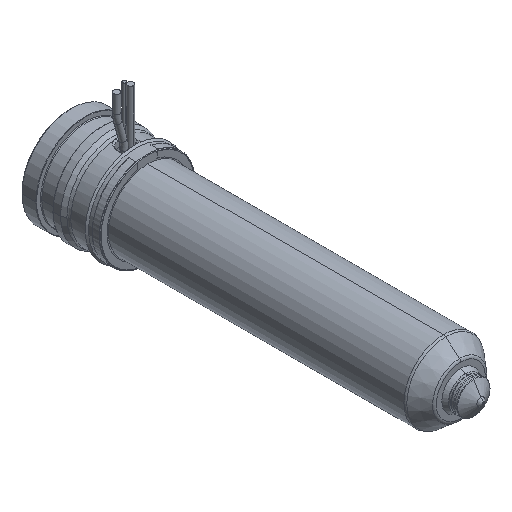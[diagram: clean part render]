
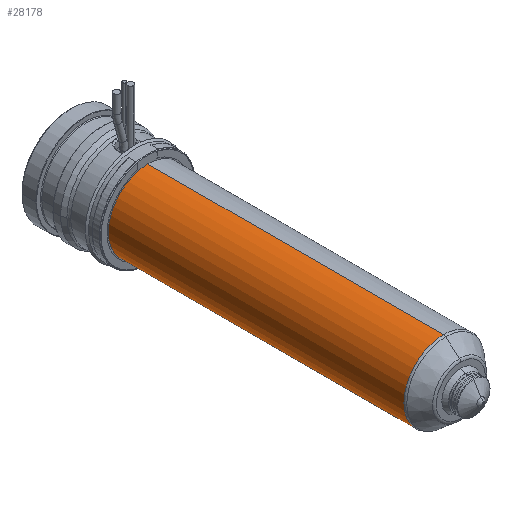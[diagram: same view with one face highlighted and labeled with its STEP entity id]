
A CAD part, isometric view. The second image highlights one B-rep face of the part: STEP entity #28178.
In plain terms, the highlighted cylindrical face has radius 12 mm (diameter 24 mm), a partial arc.
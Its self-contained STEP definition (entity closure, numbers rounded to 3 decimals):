
#27663=CARTESIAN_POINT('',(0.,-24.,0.));
#27664=DIRECTION('',(0.,1.,0.));
#27665=DIRECTION('',(0.,0.,-1.));
#27666=AXIS2_PLACEMENT_3D('',#27663,#27664,#27665);
#27671=DIRECTION('',(0.,1.,0.));
#27672=VECTOR('',#27671,89.736);
#27673=CARTESIAN_POINT('',(0.,-113.736,12.));
#27674=LINE('',#27673,#27672);
#27686=DIRECTION('',(0.,1.,0.));
#27687=VECTOR('',#27686,89.736);
#27688=CARTESIAN_POINT('',(0.,-113.736,-12.));
#27689=LINE('',#27688,#27687);
#27717=CARTESIAN_POINT('',(0.,-113.736,0.));
#27718=DIRECTION('',(0.,-1.,0.));
#27719=DIRECTION('',(0.,0.,1.));
#27720=AXIS2_PLACEMENT_3D('',#27717,#27718,#27719);
#28047=CARTESIAN_POINT('',(0.,-113.736,12.));
#28048=CARTESIAN_POINT('',(0.,-24.,12.));
#28049=VERTEX_POINT('',#28047);
#28050=VERTEX_POINT('',#28048);
#28051=CARTESIAN_POINT('',(0.,-113.736,-12.));
#28052=CARTESIAN_POINT('',(0.,-24.,-12.));
#28053=VERTEX_POINT('',#28051);
#28054=VERTEX_POINT('',#28052);
#28164=CARTESIAN_POINT('',(0.,-14.7,0.));
#28165=DIRECTION('',(0.,-1.,0.));
#28166=DIRECTION('',(0.,0.,1.));
#28167=AXIS2_PLACEMENT_3D('',#28164,#28165,#28166);
#28168=CYLINDRICAL_SURFACE('',#28167,12.);
#28170=ORIENTED_EDGE('',*,*,#28169,.F.);
#28172=ORIENTED_EDGE('',*,*,#28171,.T.);
#28174=ORIENTED_EDGE('',*,*,#28173,.T.);
#28175=ORIENTED_EDGE('',*,*,#28157,.T.);
#28176=EDGE_LOOP('',(#28170,#28172,#28174,#28175));
#28177=FACE_OUTER_BOUND('',#28176,.F.);
#28178=ADVANCED_FACE('',(#28177),#28168,.T.);
#27667=CIRCLE('',#27666,12.);
#27721=CIRCLE('',#27720,12.);
#28157=EDGE_CURVE('',#28054,#28050,#27667,.T.);
#28169=EDGE_CURVE('',#28049,#28050,#27674,.T.);
#28171=EDGE_CURVE('',#28049,#28053,#27721,.T.);
#28173=EDGE_CURVE('',#28053,#28054,#27689,.T.);
